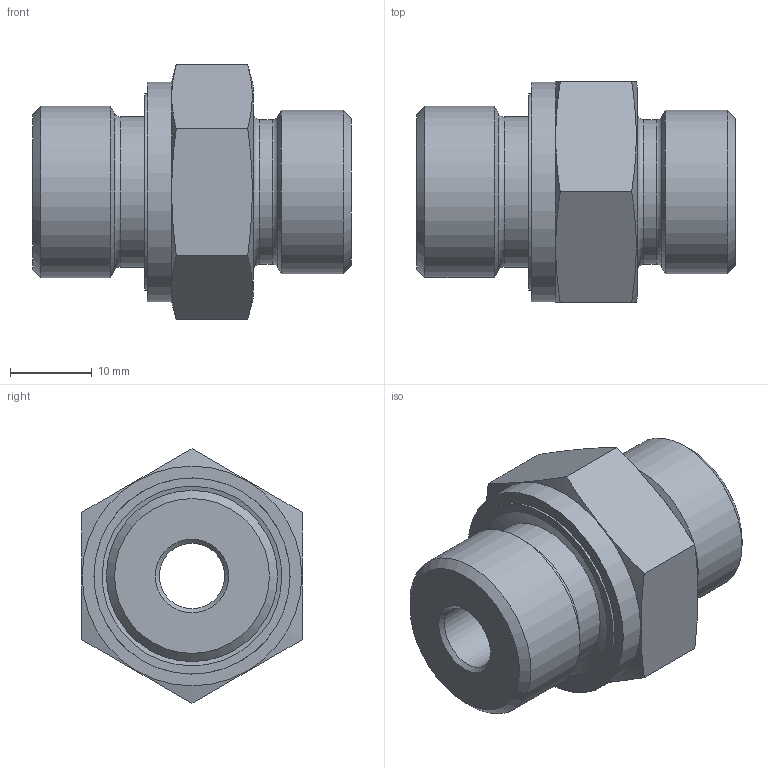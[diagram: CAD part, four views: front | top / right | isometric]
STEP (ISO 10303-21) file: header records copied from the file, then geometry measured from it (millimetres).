
FILE_DESCRIPTION( ( 'Unknown' ), '1' );
FILE_NAME( 'C:/Users/p.nanko/Desktop/3D SR/XGE12SED04.stp', 'Unknown', ( 'Peter Nanko' ), ( 'Armaturen Arndt' ), 'PSStep 14.0', 'Solid Edge ST4', ' ' );
FILE_SCHEMA( ( 'AUTOMOTIVE_DESIGN { 1 0 10303 214 1 1 1 1 }' ) );
Length unit declared in the file: millimetre
Products named in the file (3): Assem1; ED04; XGE12SED043
Assembly tree (2 placements, depth 2):
  Assem1
    ED04
    XGE12SED043
Bounding box: 39 x 27 x 31.18 mm (x, y, z)
Volume: 13467.2 mm3; surface area: 5789.5 mm2
Topology: 2 solids, 2 shells, 37 faces, 74 edges, 45 vertices
Faces by surface type: plane 14, cylinder 10, cone 9, torus 4
Full cylindrical faces by diameter (mm): 8 x1, 12 x1, 17.7 x1, 18.4 x2, 20 x1, 20.955 x1, 24 x2, 26.9 x1
Entity records: 1246 total; most frequent: CARTESIAN_POINT 230, DIRECTION 146, ORIENTED_EDGE 96, AXIS2_PLACEMENT_3D 70, EDGE_LOOP 68, FACE_OUTER_BOUND 51, EDGE_CURVE 48, VERTEX_POINT 42
